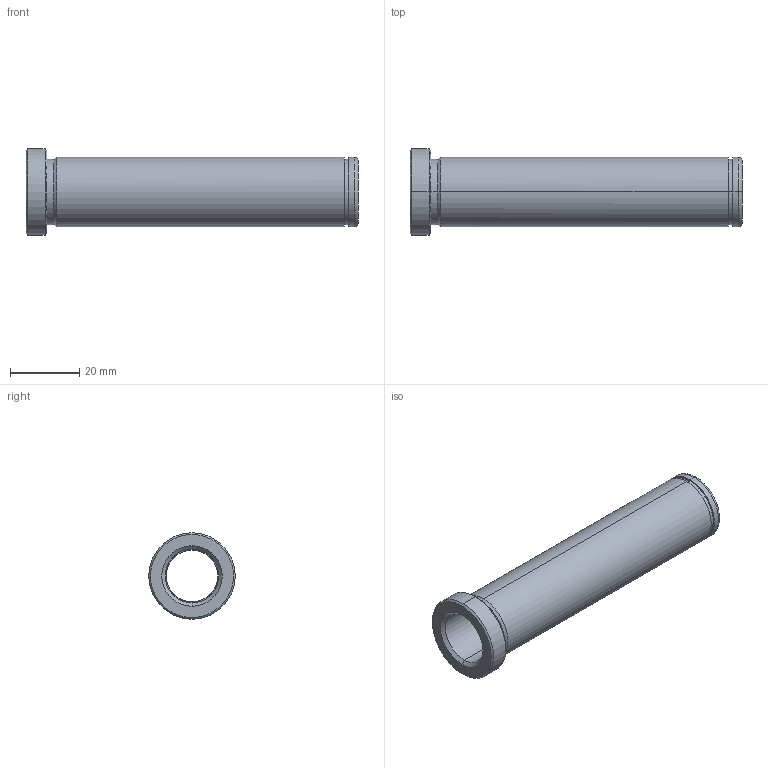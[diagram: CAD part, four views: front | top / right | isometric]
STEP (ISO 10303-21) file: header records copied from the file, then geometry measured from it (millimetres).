
FILE_DESCRIPTION(('CATIA V5 STEP Exchange'),'2;1');
FILE_NAME('C:\Users\Utente\Desktop\IO LAVORO\3D X SITO CF\X SITO\PLASTICA\553\553-15X96.stp','2021-05-21T18:41:22+00:00',('none'),('none'),'CATIA Version 5 Release 20 GA (IN-10)','CATIA V5 STEP AP203','none');
FILE_SCHEMA(('CONFIG_CONTROL_DESIGN'));
Length unit declared in the file: millimetre
Products named in the file (1): 553-15X96
Bounding box: 96 x 25 x 25 mm (x, y, z)
Volume: 13459.9 mm3; surface area: 11314.6 mm2
Topology: 1 solids, 1 shells, 31 faces, 98 edges, 72 vertices
Faces by surface type: cylinder 14, cone 8, plane 5, torus 4
Entity records: 1288 total; most frequent: CARTESIAN_POINT 384, ORIENTED_EDGE 196, DIRECTION 144, EDGE_CURVE 98, AXIS2_PLACEMENT_3D 92, VERTEX_POINT 72, CIRCLE 60, EDGE_LOOP 36
